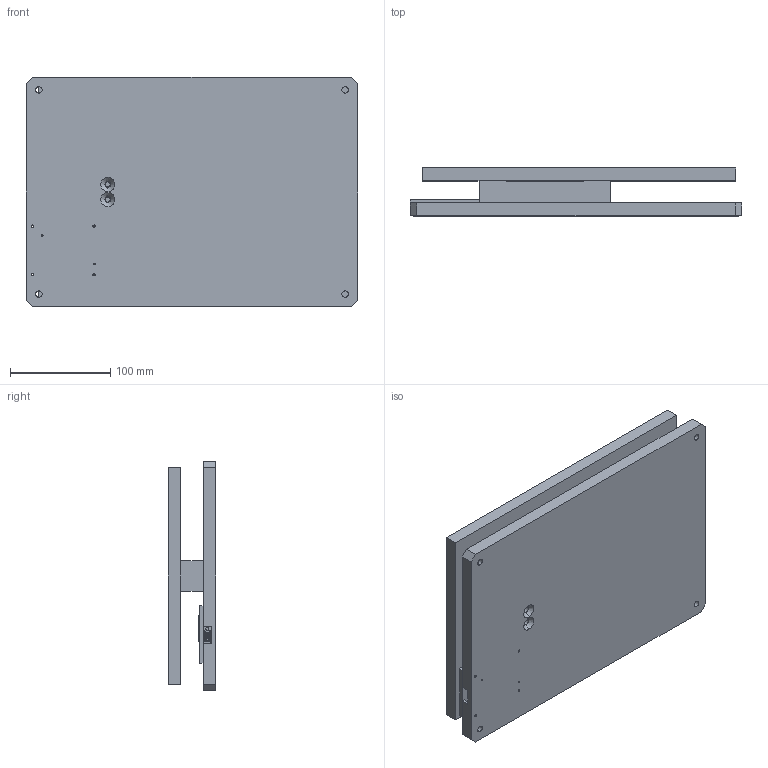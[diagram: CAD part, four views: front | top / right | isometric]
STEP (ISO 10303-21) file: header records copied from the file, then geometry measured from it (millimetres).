
FILE_DESCRIPTION (( 'STEP AP203' ), '1' );
FILE_NAME ('9x13-scale.STEP', '2020-04-14T03:30:55', ( '' ), ( '' ), 'SwSTEP 2.0', 'SolidWorks 2016', '' );
FILE_SCHEMA (( 'CONFIG_CONTROL_DESIGN' ));
Length unit declared in the file: millimetre
Products named in the file (9): rsp1_upto 50 kg; di100-pcb-subassembly; 500-02521 RSP1 scale base, AM240, with recessed di-100 and load cell; 500-02527 RSP1 scale bin holder, AM240, with recess for load cell; di100-terminal-block; 9x13-scale; di100-pcb; mini-b-female-connector-UX60SC-MB-5ST; 500-02476 Cover Plate for DI-100,StockVUE Scale, Al, AM230
Assembly tree (8 placements, depth 3):
  9x13-scale
    500-02521 RSP1 scale base, AM240, with recessed di-100 and load cell
    rsp1_upto 50 kg
    500-02527 RSP1 scale bin holder, AM240, with recess for load cell
    di100-pcb-subassembly
      di100-pcb
      di100-terminal-block
      mini-b-female-connector-UX60SC-MB-5ST
    500-02476 Cover Plate for DI-100,StockVUE Scale, Al, AM230
Bounding box: 330.2 x 47.4 x 228.6 mm (x, y, z)
Volume: 1440458.4 mm3; surface area: 353330.7 mm2
Topology: 5 solids, 17 shells, 975 faces, 3055 edges, 2037 vertices
Faces by surface type: plane 560, cylinder 342, cone 46, bspline 17, torus 10
Entity records: 35957 total; most frequent: CARTESIAN_POINT 8294, ORIENTED_EDGE 5599, DIRECTION 5239, EDGE_CURVE 3055, LINE 2069, VECTOR 2069, VERTEX_POINT 2037, AXIS2_PLACEMENT_3D 1585
